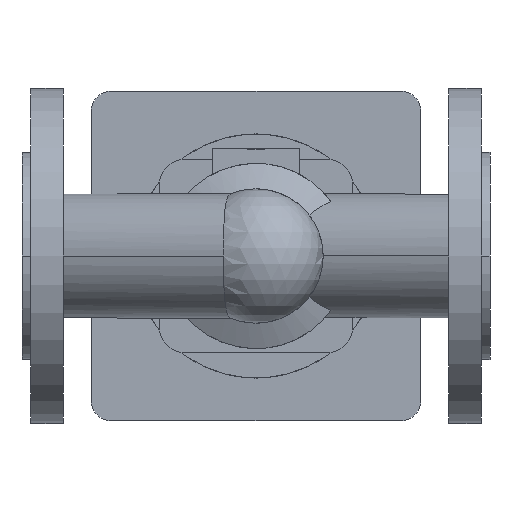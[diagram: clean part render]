
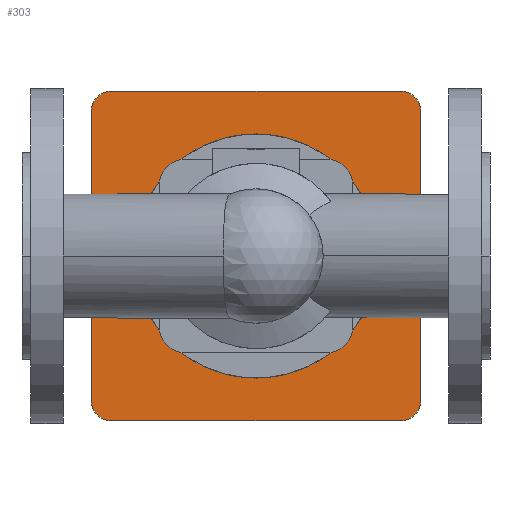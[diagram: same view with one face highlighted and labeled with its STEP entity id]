
A CAD part, front view. The second image highlights one B-rep face of the part: STEP entity #303.
In plain terms, the highlighted planar face has unit normal (0, -1, 0).
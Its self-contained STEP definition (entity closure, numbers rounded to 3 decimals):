
#303 = ADVANCED_FACE( '', ( #729, #730 ), #731, .F. );
#729 = FACE_OUTER_BOUND( '', #1181, .T. );
#730 = FACE_BOUND( '', #1182, .T. );
#731 = PLANE( '', #1183 );
#1181 = EDGE_LOOP( '', ( #2652, #2653, #2654, #2655, #2656, #2657, #2658, #2659 ) );
#1182 = EDGE_LOOP( '', ( #2660, #2661 ) );
#1183 = AXIS2_PLACEMENT_3D( '', #2662, #2663, #2664 );
#2652 = ORIENTED_EDGE( '', *, *, #3283, .F. );
#2653 = ORIENTED_EDGE( '', *, *, #3284, .F. );
#2654 = ORIENTED_EDGE( '', *, *, #3285, .F. );
#2655 = ORIENTED_EDGE( '', *, *, #3286, .F. );
#2656 = ORIENTED_EDGE( '', *, *, #3287, .F. );
#2657 = ORIENTED_EDGE( '', *, *, #3288, .F. );
#2658 = ORIENTED_EDGE( '', *, *, #3289, .F. );
#2659 = ORIENTED_EDGE( '', *, *, #3290, .F. );
#2660 = ORIENTED_EDGE( '', *, *, #3198, .F. );
#2661 = ORIENTED_EDGE( '', *, *, #3291, .F. );
#2662 = CARTESIAN_POINT( '', ( 115., 584., 0. ) );
#2663 = DIRECTION( '', ( 0., 1., 0. ) );
#2664 = DIRECTION( '', ( 0., 0., 1. ) );
#3198 = EDGE_CURVE( '', #3943, #3946, #3947, .T. );
#3283 = EDGE_CURVE( '', #4090, #4091, #4092, .T. );
#3284 = EDGE_CURVE( '', #4093, #4090, #4094, .T. );
#3285 = EDGE_CURVE( '', #4095, #4093, #4096, .T. );
#3286 = EDGE_CURVE( '', #4097, #4095, #4098, .T. );
#3287 = EDGE_CURVE( '', #4099, #4097, #4100, .T. );
#3288 = EDGE_CURVE( '', #4101, #4099, #4102, .T. );
#3289 = EDGE_CURVE( '', #4103, #4101, #4104, .T. );
#3290 = EDGE_CURVE( '', #4091, #4103, #4105, .T. );
#3291 = EDGE_CURVE( '', #3946, #3943, #4106, .T. );
#3943 = VERTEX_POINT( '', #5448 );
#3946 = VERTEX_POINT( '', #5452 );
#3947 = CIRCLE( '', #5453, 40. );
#4090 = VERTEX_POINT( '', #5651 );
#4091 = VERTEX_POINT( '', #5652 );
#4092 = CIRCLE( '', #5653, 10. );
#4093 = VERTEX_POINT( '', #5654 );
#4094 = LINE( '', #5655, #5656 );
#4095 = VERTEX_POINT( '', #5657 );
#4096 = CIRCLE( '', #5658, 10. );
#4097 = VERTEX_POINT( '', #5659 );
#4098 = LINE( '', #5660, #5661 );
#4099 = VERTEX_POINT( '', #5662 );
#4100 = CIRCLE( '', #5663, 10. );
#4101 = VERTEX_POINT( '', #5664 );
#4102 = LINE( '', #5665, #5666 );
#4103 = VERTEX_POINT( '', #5667 );
#4104 = CIRCLE( '', #5668, 10. );
#4105 = LINE( '', #5669, #5670 );
#4106 = CIRCLE( '', #5671, 40. );
#5448 = CARTESIAN_POINT( '', ( 75., 584., 0. ) );
#5452 = CARTESIAN_POINT( '', ( 155., 584., 0. ) );
#5453 = AXIS2_PLACEMENT_3D( '', #6408, #6409, #6410 );
#5651 = CARTESIAN_POINT( '', ( 34., 584., 71. ) );
#5652 = CARTESIAN_POINT( '', ( 44., 584., 81. ) );
#5653 = AXIS2_PLACEMENT_3D( '', #6553, #6554, #6555 );
#5654 = CARTESIAN_POINT( '', ( 34., 584., -71. ) );
#5655 = CARTESIAN_POINT( '', ( 34., 584., -71. ) );
#5656 = VECTOR( '', #6556, 1. );
#5657 = CARTESIAN_POINT( '', ( 44., 584., -81. ) );
#5658 = AXIS2_PLACEMENT_3D( '', #6557, #6558, #6559 );
#5659 = CARTESIAN_POINT( '', ( 186., 584., -81. ) );
#5660 = CARTESIAN_POINT( '', ( 186., 584., -81. ) );
#5661 = VECTOR( '', #6560, 1. );
#5662 = CARTESIAN_POINT( '', ( 196., 584., -71. ) );
#5663 = AXIS2_PLACEMENT_3D( '', #6561, #6562, #6563 );
#5664 = CARTESIAN_POINT( '', ( 196., 584., 71. ) );
#5665 = CARTESIAN_POINT( '', ( 196., 584., 71. ) );
#5666 = VECTOR( '', #6564, 1. );
#5667 = CARTESIAN_POINT( '', ( 186., 584., 81. ) );
#5668 = AXIS2_PLACEMENT_3D( '', #6565, #6566, #6567 );
#5669 = CARTESIAN_POINT( '', ( 44., 584., 81. ) );
#5670 = VECTOR( '', #6568, 1. );
#5671 = AXIS2_PLACEMENT_3D( '', #6569, #6570, #6571 );
#6408 = CARTESIAN_POINT( '', ( 115., 584., 0. ) );
#6409 = DIRECTION( '', ( 0., -1., 0. ) );
#6410 = DIRECTION( '', ( -1., 0., 0. ) );
#6553 = CARTESIAN_POINT( '', ( 44., 584., 71. ) );
#6554 = DIRECTION( '', ( 0., 1., 0. ) );
#6555 = DIRECTION( '', ( -1., 0., 0. ) );
#6556 = DIRECTION( '', ( 0., 0., 1. ) );
#6557 = CARTESIAN_POINT( '', ( 44., 584., -71. ) );
#6558 = DIRECTION( '', ( 0., 1., 0. ) );
#6559 = DIRECTION( '', ( 0., 0., -1. ) );
#6560 = DIRECTION( '', ( -1., 0., 0. ) );
#6561 = CARTESIAN_POINT( '', ( 186., 584., -71. ) );
#6562 = DIRECTION( '', ( 0., 1., 0. ) );
#6563 = DIRECTION( '', ( 1., 0., 0. ) );
#6564 = DIRECTION( '', ( 0., 0., -1. ) );
#6565 = CARTESIAN_POINT( '', ( 186., 584., 71. ) );
#6566 = DIRECTION( '', ( 0., 1., 0. ) );
#6567 = DIRECTION( '', ( 0., 0., 1. ) );
#6568 = DIRECTION( '', ( 1., 0., 0. ) );
#6569 = CARTESIAN_POINT( '', ( 115., 584., 0. ) );
#6570 = DIRECTION( '', ( 0., -1., 0. ) );
#6571 = DIRECTION( '', ( -1., 0., 0. ) );
